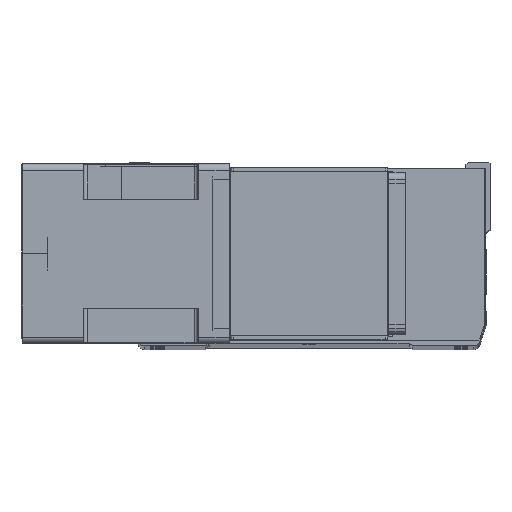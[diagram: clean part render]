
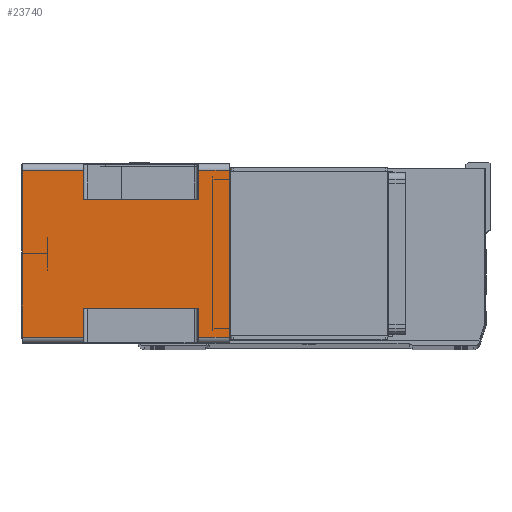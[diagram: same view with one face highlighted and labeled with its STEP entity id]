
A CAD part, top view. The second image highlights one B-rep face of the part: STEP entity #23740.
In plain terms, the highlighted planar face has unit normal (0, 0, 1) as drawn and (-1, 0, 0) by its records, which use the part's own axes.
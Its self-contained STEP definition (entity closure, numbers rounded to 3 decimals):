
#233 = EDGE_CURVE ( 'NONE', #42833, #6843, #41728, .T. ) ;
#505 = VECTOR ( 'NONE', #14497, 1000. ) ;
#1303 = DIRECTION ( 'NONE',  ( 0., 0., 1. ) ) ;
#1573 = CARTESIAN_POINT ( 'NONE',  ( -71., 43., -24.5 ) ) ;
#1984 = CARTESIAN_POINT ( 'NONE',  ( -71., 66., -24.5 ) ) ;
#3447 = LINE ( 'NONE', #3514, #39748 ) ;
#3514 = CARTESIAN_POINT ( 'NONE',  ( -71., 66., -164. ) ) ;
#3735 = DIRECTION ( 'NONE',  ( 0., -1., 0. ) ) ;
#4728 = EDGE_CURVE ( 'NONE', #20141, #15608, #40224, .T. ) ;
#4855 = VECTOR ( 'NONE', #38057, 1000. ) ;
#5078 = CARTESIAN_POINT ( 'NONE',  ( -71., -66., -115.5 ) ) ;
#6082 = CARTESIAN_POINT ( 'NONE',  ( -71., -43., -115.5 ) ) ;
#6787 = VECTOR ( 'NONE', #3735, 1000. ) ;
#6843 = VERTEX_POINT ( 'NONE', #1573 ) ;
#6909 = VERTEX_POINT ( 'NONE', #36728 ) ;
#7223 = VECTOR ( 'NONE', #23817, 1000. ) ;
#7895 = EDGE_CURVE ( 'NONE', #42833, #6909, #27735, .T. ) ;
#8493 = CARTESIAN_POINT ( 'NONE',  ( -71., 66., 0. ) ) ;
#9014 = CARTESIAN_POINT ( 'NONE',  ( -71., -66., -164. ) ) ;
#9129 = CARTESIAN_POINT ( 'NONE',  ( -71., 43., -24.5 ) ) ;
#9755 = EDGE_CURVE ( 'NONE', #32684, #6909, #34485, .T. ) ;
#9910 = CARTESIAN_POINT ( 'NONE',  ( -71., -66., -164. ) ) ;
#10065 = ORIENTED_EDGE ( 'NONE', *, *, #34431, .T. ) ;
#11324 = LINE ( 'NONE', #38937, #505 ) ;
#11519 = LINE ( 'NONE', #27864, #20759 ) ;
#12234 = VECTOR ( 'NONE', #41736, 1000. ) ;
#12785 = EDGE_CURVE ( 'NONE', #32684, #18742, #16459, .T. ) ;
#12937 = VECTOR ( 'NONE', #1303, 1000. ) ;
#13853 = CARTESIAN_POINT ( 'NONE',  ( -71., 66., -164. ) ) ;
#13921 = CARTESIAN_POINT ( 'NONE',  ( -71., -66., -164. ) ) ;
#14497 = DIRECTION ( 'NONE',  ( 0., 1., 0. ) ) ;
#14599 = EDGE_LOOP ( 'NONE', ( #22865, #24485, #37903, #10065, #23091, #39777, #42851, #21838, #43482, #20362, #35774, #25934 ) ) ;
#14787 = CARTESIAN_POINT ( 'NONE',  ( -71., 43., -164. ) ) ;
#14870 = CARTESIAN_POINT ( 'NONE',  ( -71., -66., -164. ) ) ;
#15198 = CARTESIAN_POINT ( 'NONE',  ( -71., -66., -24.5 ) ) ;
#15250 = VECTOR ( 'NONE', #23483, 1000. ) ;
#15304 = VERTEX_POINT ( 'NONE', #15198 ) ;
#15608 = VERTEX_POINT ( 'NONE', #6082 ) ;
#16459 = LINE ( 'NONE', #34413, #7223 ) ;
#16749 = EDGE_CURVE ( 'NONE', #17417, #15608, #11324, .T. ) ;
#17012 = EDGE_CURVE ( 'NONE', #18742, #17417, #32507, .T. ) ;
#17232 = AXIS2_PLACEMENT_3D ( 'NONE', #9910, #37803, #41740 ) ;
#17417 = VERTEX_POINT ( 'NONE', #26238 ) ;
#17827 = VECTOR ( 'NONE', #32871, 1000. ) ;
#18742 = VERTEX_POINT ( 'NONE', #14870 ) ;
#18881 = DIRECTION ( 'NONE',  ( 0., 1., 0. ) ) ;
#20141 = VERTEX_POINT ( 'NONE', #27621 ) ;
#20362 = ORIENTED_EDGE ( 'NONE', *, *, #7895, .T. ) ;
#20759 = VECTOR ( 'NONE', #28163, 1000. ) ;
#20870 = CARTESIAN_POINT ( 'NONE',  ( -71., -66., 0. ) ) ;
#21838 = ORIENTED_EDGE ( 'NONE', *, *, #28644, .T. ) ;
#22784 = CARTESIAN_POINT ( 'NONE',  ( -71., 43., -115.5 ) ) ;
#22865 = ORIENTED_EDGE ( 'NONE', *, *, #17012, .T. ) ;
#23091 = ORIENTED_EDGE ( 'NONE', *, *, #30305, .T. ) ;
#23483 = DIRECTION ( 'NONE',  ( 0., 0., -1. ) ) ;
#23740 = ADVANCED_FACE ( 'NONE', ( #44953 ), #31008, .T. ) ;
#23801 = DIRECTION ( 'NONE',  ( 0., -1., 0. ) ) ;
#23817 = DIRECTION ( 'NONE',  ( 0., -1., 0. ) ) ;
#24485 = ORIENTED_EDGE ( 'NONE', *, *, #16749, .T. ) ;
#25646 = VECTOR ( 'NONE', #23801, 1000. ) ;
#25934 = ORIENTED_EDGE ( 'NONE', *, *, #12785, .T. ) ;
#26238 = CARTESIAN_POINT ( 'NONE',  ( -71., -66., -115.5 ) ) ;
#27105 = CARTESIAN_POINT ( 'NONE',  ( -71., -43., -164. ) ) ;
#27621 = CARTESIAN_POINT ( 'NONE',  ( -71., -43., -24.5 ) ) ;
#27622 = EDGE_CURVE ( 'NONE', #38979, #28072, #39894, .T. ) ;
#27735 = LINE ( 'NONE', #5078, #36420 ) ;
#27864 = CARTESIAN_POINT ( 'NONE',  ( -71., -66., -24.5 ) ) ;
#28072 = VERTEX_POINT ( 'NONE', #39610 ) ;
#28163 = DIRECTION ( 'NONE',  ( 0., -1., 0. ) ) ;
#28644 = EDGE_CURVE ( 'NONE', #33479, #6843, #43506, .T. ) ;
#30305 = EDGE_CURVE ( 'NONE', #15304, #28072, #44444, .T. ) ;
#31008 = PLANE ( 'NONE',  #17232 ) ;
#32507 = LINE ( 'NONE', #9014, #17827 ) ;
#32684 = VERTEX_POINT ( 'NONE', #13853 ) ;
#32871 = DIRECTION ( 'NONE',  ( 0., 0., 1. ) ) ;
#33479 = VERTEX_POINT ( 'NONE', #1984 ) ;
#34413 = CARTESIAN_POINT ( 'NONE',  ( -71., -66., -164. ) ) ;
#34431 = EDGE_CURVE ( 'NONE', #20141, #15304, #11519, .T. ) ;
#34485 = LINE ( 'NONE', #41590, #12234 ) ;
#35774 = ORIENTED_EDGE ( 'NONE', *, *, #9755, .F. ) ;
#35873 = EDGE_CURVE ( 'NONE', #33479, #38979, #3447, .T. ) ;
#36420 = VECTOR ( 'NONE', #18881, 1000. ) ;
#36728 = CARTESIAN_POINT ( 'NONE',  ( -71., 66., -115.5 ) ) ;
#37803 = DIRECTION ( 'NONE',  ( -1., 0., 0. ) ) ;
#37903 = ORIENTED_EDGE ( 'NONE', *, *, #4728, .F. ) ;
#38057 = DIRECTION ( 'NONE',  ( 0., 0., 1. ) ) ;
#38333 = DIRECTION ( 'NONE',  ( 0., 0., 1. ) ) ;
#38937 = CARTESIAN_POINT ( 'NONE',  ( -71., -43., -115.5 ) ) ;
#38979 = VERTEX_POINT ( 'NONE', #8493 ) ;
#39610 = CARTESIAN_POINT ( 'NONE',  ( -71., -66., 0. ) ) ;
#39748 = VECTOR ( 'NONE', #38333, 1000. ) ;
#39777 = ORIENTED_EDGE ( 'NONE', *, *, #27622, .F. ) ;
#39894 = LINE ( 'NONE', #20870, #6787 ) ;
#40224 = LINE ( 'NONE', #27105, #15250 ) ;
#41590 = CARTESIAN_POINT ( 'NONE',  ( -71., 66., -164. ) ) ;
#41728 = LINE ( 'NONE', #14787, #12937 ) ;
#41736 = DIRECTION ( 'NONE',  ( 0., 0., 1. ) ) ;
#41740 = DIRECTION ( 'NONE',  ( 0., -1., 0. ) ) ;
#42833 = VERTEX_POINT ( 'NONE', #22784 ) ;
#42851 = ORIENTED_EDGE ( 'NONE', *, *, #35873, .F. ) ;
#43482 = ORIENTED_EDGE ( 'NONE', *, *, #233, .F. ) ;
#43506 = LINE ( 'NONE', #9129, #25646 ) ;
#44444 = LINE ( 'NONE', #13921, #4855 ) ;
#44953 = FACE_OUTER_BOUND ( 'NONE', #14599, .T. ) ;
